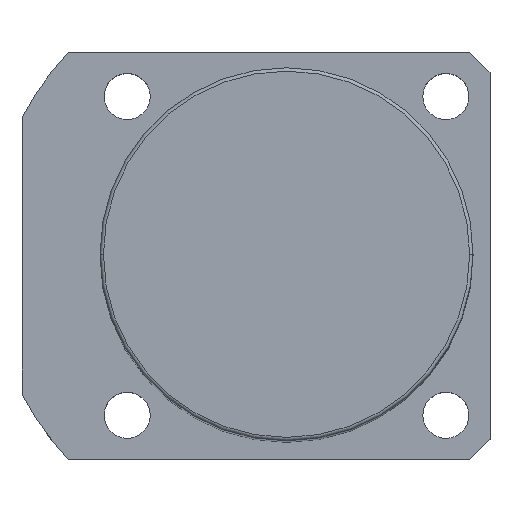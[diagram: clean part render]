
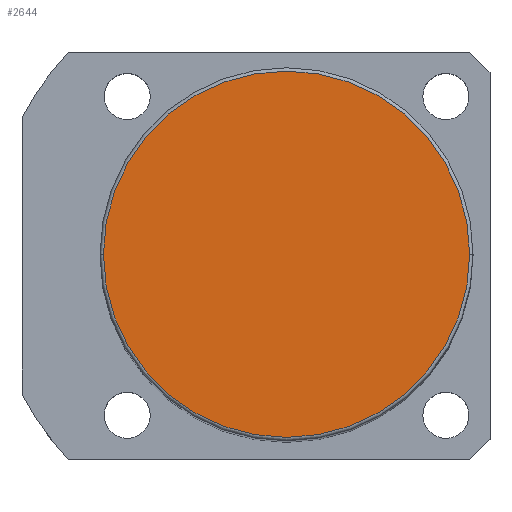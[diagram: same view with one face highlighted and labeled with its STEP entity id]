
A CAD part, top view. The second image highlights one B-rep face of the part: STEP entity #2644.
In plain terms, the highlighted planar face has unit normal (0, 0, 1).
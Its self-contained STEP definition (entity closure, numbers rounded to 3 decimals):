
#77 = CARTESIAN_POINT ( 'NONE',  ( 0., 0., 146. ) ) ;
#452 = EDGE_CURVE ( 'NONE', #4017, #2370, #2839, .T. ) ;
#548 = AXIS2_PLACEMENT_3D ( 'NONE', #782, #796, #3575 ) ;
#782 = CARTESIAN_POINT ( 'NONE',  ( 0., 0., 146. ) ) ;
#796 = DIRECTION ( 'NONE',  ( 0., 0., 1. ) ) ;
#946 = CIRCLE ( 'NONE', #2683, 27. ) ;
#1139 = ORIENTED_EDGE ( 'NONE', *, *, #452, .T. ) ;
#1174 = AXIS2_PLACEMENT_3D ( 'NONE', #77, #1708, #2857 ) ;
#1515 = EDGE_LOOP ( 'NONE', ( #1139, #5082 ) ) ;
#1708 = DIRECTION ( 'NONE',  ( 0., 0., 1. ) ) ;
#2115 = DIRECTION ( 'NONE',  ( 0., 0., 1. ) ) ;
#2370 = VERTEX_POINT ( 'NONE', #4725 ) ;
#2418 = FACE_OUTER_BOUND ( 'NONE', #1515, .T. ) ;
#2644 = ADVANCED_FACE ( 'NONE', ( #2418 ), #4721, .T. ) ;
#2683 = AXIS2_PLACEMENT_3D ( 'NONE', #4467, #2115, #4858 ) ;
#2839 = CIRCLE ( 'NONE', #1174, 27. ) ;
#2857 = DIRECTION ( 'NONE',  ( 1., 0., 0. ) ) ;
#2919 = CARTESIAN_POINT ( 'NONE',  ( 27., 0., 146. ) ) ;
#3575 = DIRECTION ( 'NONE',  ( 1., 0., 0. ) ) ;
#3989 = EDGE_CURVE ( 'NONE', #2370, #4017, #946, .T. ) ;
#4017 = VERTEX_POINT ( 'NONE', #2919 ) ;
#4467 = CARTESIAN_POINT ( 'NONE',  ( 0., 0., 146. ) ) ;
#4721 = PLANE ( 'NONE',  #548 ) ;
#4725 = CARTESIAN_POINT ( 'NONE',  ( -27., 0., 146. ) ) ;
#4858 = DIRECTION ( 'NONE',  ( 1., 0., 0. ) ) ;
#5082 = ORIENTED_EDGE ( 'NONE', *, *, #3989, .T. ) ;
